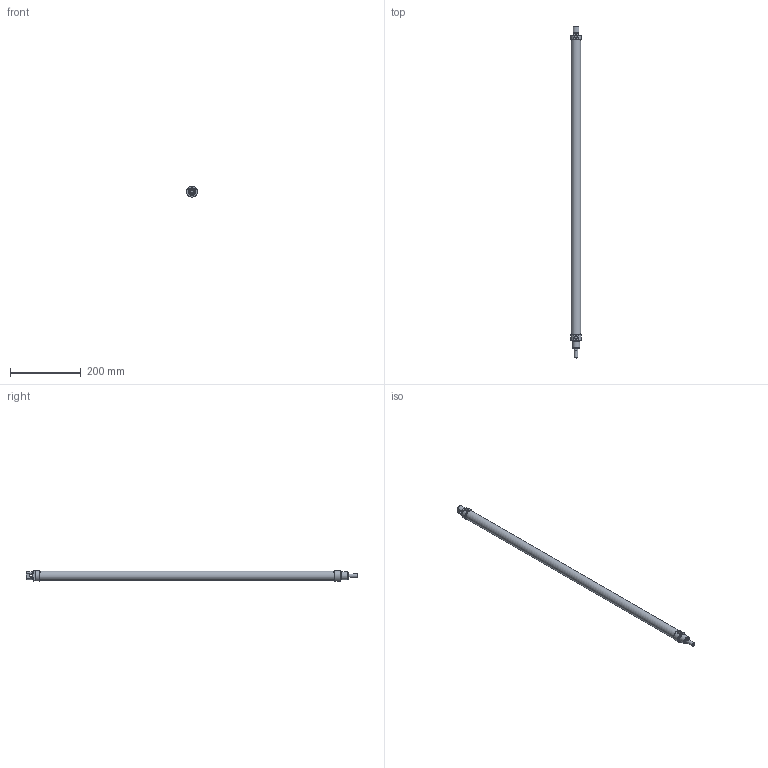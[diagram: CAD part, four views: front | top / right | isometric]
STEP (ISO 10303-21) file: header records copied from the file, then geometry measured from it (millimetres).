
FILE_DESCRIPTION((''),'2;1');
FILE_NAME('T:\Archivio Inventor\- 00 NUOVI STP PER SITO CON STELO CHE SI MUOVE\SERIE O\ODM\ODM025.---.GS.M\ODM025.800.GS.M.stp','2017-06-12T16:04:23',('carlo.corazza'),(''),'Autodesk Inventor 2013','Autodesk Inventor 2013','');
FILE_SCHEMA(('AUTOMOTIVE_DESIGN { 1 0 10303 214 1 1 1 1 }'));
Length unit declared in the file: millimetre
Products named in the file (5): ODM025..GS.M; CORPO-800; STELO-800; TA; TP
Assembly tree (4 placements, depth 2):
  ODM025..GS.M
    CORPO-800
    STELO-800
    TA
    TP
Bounding box: 30 x 940 x 28.45 mm (x, y, z)
Volume: 154478.2 mm3; surface area: 173728.1 mm2
Topology: 4 solids, 4 shells, 98 faces, 202 edges, 127 vertices
Faces by surface type: plane 38, cylinder 28, cone 24, torus 8
Full cylindrical faces by diameter (mm): 8 x2, 8.566 x2, 9.9 x1, 10 x1, 10.5 x1, 11.1 x1, 14 x1, 14.1 x1, 16.1 x1, 16.2 x1, 19.7 x1, 22 x2, 25 x1, 26.5 x1, 27 x2
Entity records: 2537 total; most frequent: DIRECTION 442, CARTESIAN_POINT 420, ORIENTED_EDGE 292, AXIS2_PLACEMENT_3D 198, EDGE_LOOP 164, EDGE_CURVE 146, VERTEX_POINT 118, FACE_OUTER_BOUND 98
